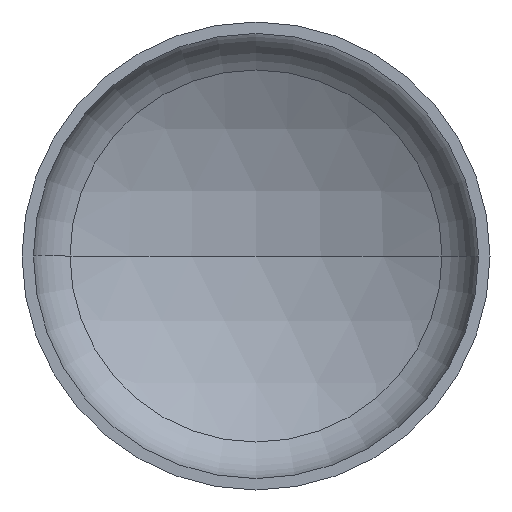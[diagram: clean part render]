
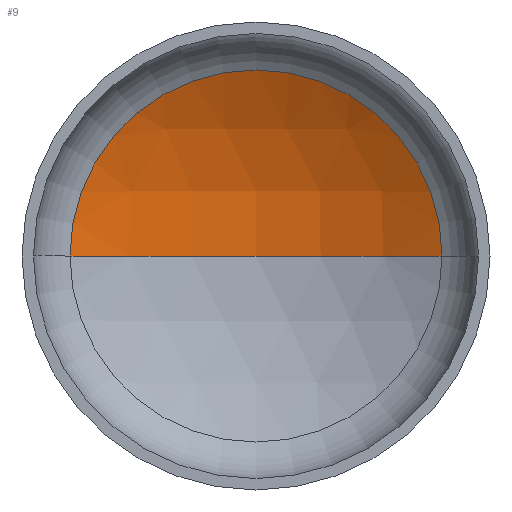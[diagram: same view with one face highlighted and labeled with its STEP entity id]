
A CAD part, front view. The second image highlights one B-rep face of the part: STEP entity #9.
In plain terms, the highlighted spherical face has radius 1600 mm.
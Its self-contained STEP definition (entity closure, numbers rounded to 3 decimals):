
#8 = DIRECTION ( 'NONE',  ( -1., 0., 0. ) ) ;
#9 = ADVANCED_FACE ( 'NONE', ( #134 ), #52, .F. ) ;
#13 = EDGE_LOOP ( 'NONE', ( #108, #104, #86 ) ) ;
#45 = VERTEX_POINT ( 'NONE', #230 ) ;
#52 = SPHERICAL_SURFACE ( 'NONE', #409, 1600. ) ;
#55 = VERTEX_POINT ( 'NONE', #227 ) ;
#86 = ORIENTED_EDGE ( 'NONE', *, *, #168, .T. ) ;
#101 = VERTEX_POINT ( 'NONE', #308 ) ;
#104 = ORIENTED_EDGE ( 'NONE', *, *, #206, .T. ) ;
#108 = ORIENTED_EDGE ( 'NONE', *, *, #223, .F. ) ;
#134 = FACE_OUTER_BOUND ( 'NONE', #13, .T. ) ;
#168 = EDGE_CURVE ( 'NONE', #101, #55, #288, .T. ) ;
#172 = CARTESIAN_POINT ( 'NONE',  ( 0., -969.473, 0. ) ) ;
#175 = DIRECTION ( 'NONE',  ( 0., 0., 1. ) ) ;
#188 = DIRECTION ( 'NONE',  ( 1., 0., 0. ) ) ;
#193 = DIRECTION ( 'NONE',  ( 1., 0., 0. ) ) ;
#196 = DIRECTION ( 'NONE',  ( 0., -1., 0. ) ) ;
#199 = AXIS2_PLACEMENT_3D ( 'NONE', #284, #196, #193 ) ;
#206 = EDGE_CURVE ( 'NONE', #45, #101, #355, .T. ) ;
#210 = CIRCLE ( 'NONE', #307, 1600. ) ;
#223 = EDGE_CURVE ( 'NONE', #45, #55, #210, .T. ) ;
#227 = CARTESIAN_POINT ( 'NONE',  ( -795.039, 419.021, 0. ) ) ;
#230 = CARTESIAN_POINT ( 'NONE',  ( 0., 630.527, 0. ) ) ;
#231 = DIRECTION ( 'NONE',  ( 0., 0., -1. ) ) ;
#270 = AXIS2_PLACEMENT_3D ( 'NONE', #344, #406, #8 ) ;
#275 = DIRECTION ( 'NONE',  ( -1., 0., 0. ) ) ;
#276 = CARTESIAN_POINT ( 'NONE',  ( 0., -969.473, 0. ) ) ;
#284 = CARTESIAN_POINT ( 'NONE',  ( 0., 419.021, 0. ) ) ;
#288 = CIRCLE ( 'NONE', #199, 795.039 ) ;
#307 = AXIS2_PLACEMENT_3D ( 'NONE', #172, #175, #188 ) ;
#308 = CARTESIAN_POINT ( 'NONE',  ( 795.039, 419.021, 0. ) ) ;
#344 = CARTESIAN_POINT ( 'NONE',  ( 0., -969.473, 0. ) ) ;
#355 = CIRCLE ( 'NONE', #270, 1600. ) ;
#406 = DIRECTION ( 'NONE',  ( 0., 0., -1. ) ) ;
#409 = AXIS2_PLACEMENT_3D ( 'NONE', #276, #231, #275 ) ;
